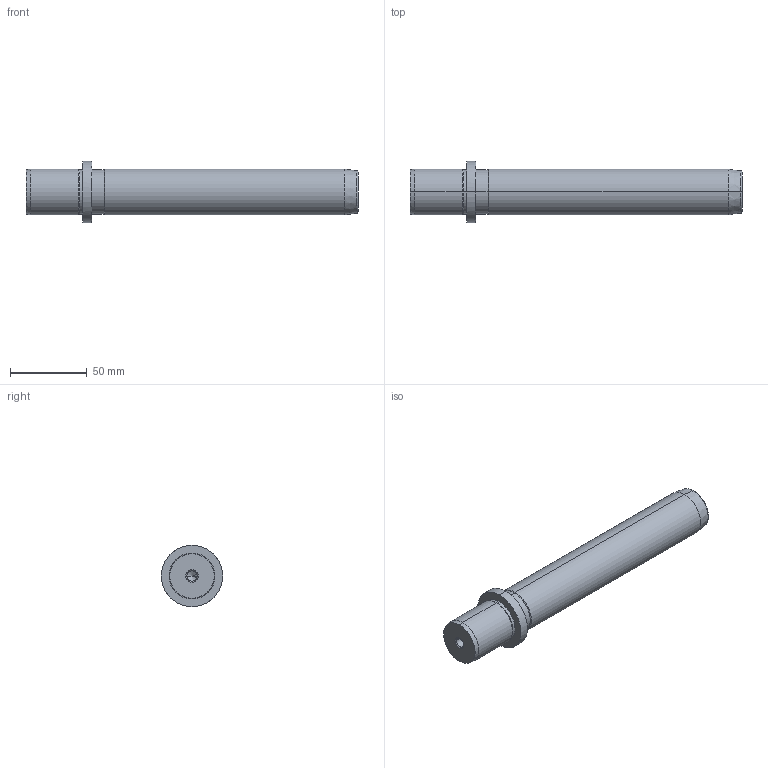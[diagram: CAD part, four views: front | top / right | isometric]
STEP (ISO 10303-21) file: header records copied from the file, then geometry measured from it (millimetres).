
FILE_DESCRIPTION(('CATIA V5 STEP Exchange'),'2;1');
FILE_NAME('C:\Users\Utente\Desktop\IO LAVORO\3D X SITO CF\X SITO\719\719-30x180.stp','2021-01-03T16:06:43+00:00',('none'),('none'),'CATIA Version 5 Release 20 GA (IN-10)','CATIA V5 STEP AP203','none');
FILE_SCHEMA(('CONFIG_CONTROL_DESIGN'));
Length unit declared in the file: millimetre
Products named in the file (1): 719-30x180
Bounding box: 217 x 40 x 40 mm (x, y, z)
Volume: 153878 mm3; surface area: 24032.7 mm2
Topology: 1 solids, 1 shells, 36 faces, 100 edges, 66 vertices
Faces by surface type: cone 16, cylinder 14, plane 4, torus 2
Entity records: 1267 total; most frequent: CARTESIAN_POINT 334, ORIENTED_EDGE 192, DIRECTION 159, EDGE_CURVE 96, AXIS2_PLACEMENT_3D 94, VERTEX_POINT 66, CIRCLE 57, EDGE_LOOP 40
